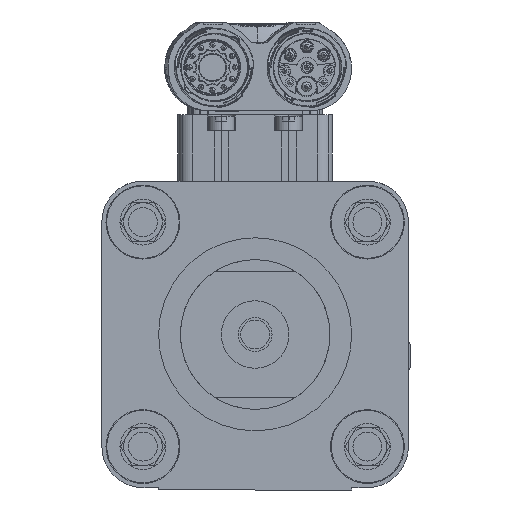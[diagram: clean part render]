
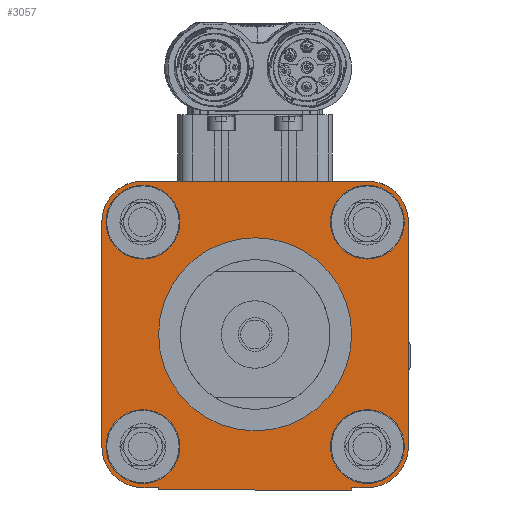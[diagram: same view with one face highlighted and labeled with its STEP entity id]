
A CAD part, left-side view. The second image highlights one B-rep face of the part: STEP entity #3057.
In plain terms, the highlighted planar face has unit normal (-1, 0, 0) as drawn and (0, 0, 1) by its records, which use the part's own axes.
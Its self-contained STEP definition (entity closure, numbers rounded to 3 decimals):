
#3057=ADVANCED_FACE('10:20',(#7719,#7720,#7721,#7722,#7723,#7724),#7725,.T.);
#7719=FACE_BOUND('',#14329,.T.);
#7720=FACE_BOUND('',#14330,.T.);
#7721=FACE_BOUND('',#14331,.T.);
#7722=FACE_BOUND('',#14332,.T.);
#7723=FACE_BOUND('',#14333,.T.);
#7724=FACE_OUTER_BOUND('',#14334,.T.);
#7725=PLANE('',#14335);
#14329=EDGE_LOOP('',(#44551,#44552));
#14330=EDGE_LOOP('',(#44553,#44554));
#14331=EDGE_LOOP('',(#44555,#44556));
#14332=EDGE_LOOP('',(#44557,#44558));
#14333=EDGE_LOOP('',(#44559,#44560));
#14334=EDGE_LOOP('',(#44561,#44562,#44563,#44564,#44565,#44566,#44567,#44568,#44569,#44570,#44571,#44572,#44573,#44574,#44575,#44576));
#14335=AXIS2_PLACEMENT_3D('',#44577,#44578,#44579);
#44551=ORIENTED_EDGE('',*,*,#62134,.F.);
#44552=ORIENTED_EDGE('',*,*,#62244,.F.);
#44553=ORIENTED_EDGE('',*,*,#62139,.F.);
#44554=ORIENTED_EDGE('',*,*,#62241,.F.);
#44555=ORIENTED_EDGE('',*,*,#62144,.F.);
#44556=ORIENTED_EDGE('',*,*,#62238,.F.);
#44557=ORIENTED_EDGE('',*,*,#62149,.F.);
#44558=ORIENTED_EDGE('',*,*,#62235,.F.);
#44559=ORIENTED_EDGE('',*,*,#62154,.F.);
#44560=ORIENTED_EDGE('',*,*,#62232,.F.);
#44561=ORIENTED_EDGE('',*,*,#62159,.F.);
#44562=ORIENTED_EDGE('',*,*,#62227,.F.);
#44563=ORIENTED_EDGE('',*,*,#62222,.F.);
#44564=ORIENTED_EDGE('',*,*,#62164,.F.);
#44565=ORIENTED_EDGE('',*,*,#62220,.F.);
#44566=ORIENTED_EDGE('',*,*,#62213,.F.);
#44567=ORIENTED_EDGE('',*,*,#62169,.F.);
#44568=ORIENTED_EDGE('',*,*,#62210,.F.);
#44569=ORIENTED_EDGE('',*,*,#62206,.F.);
#44570=ORIENTED_EDGE('',*,*,#62174,.F.);
#44571=ORIENTED_EDGE('',*,*,#62203,.F.);
#44572=ORIENTED_EDGE('',*,*,#62200,.F.);
#44573=ORIENTED_EDGE('',*,*,#62196,.F.);
#44574=ORIENTED_EDGE('',*,*,#62190,.F.);
#44575=ORIENTED_EDGE('',*,*,#62187,.F.);
#44576=ORIENTED_EDGE('',*,*,#62229,.F.);
#44577=CARTESIAN_POINT('',(0.,0.,34.0));
#44578=DIRECTION('',(0.0,0.0,1.0));
#44579=DIRECTION('',(1.0,0.0,0.0));
#62134=EDGE_CURVE('10:253',#74532,#74528,#74534,.F.);
#62139=EDGE_CURVE('0:1577',#74541,#74537,#74543,.F.);
#62144=EDGE_CURVE('0:1603',#74550,#74546,#74552,.F.);
#62149=EDGE_CURVE('0:1551',#74559,#74555,#74561,.F.);
#62154=EDGE_CURVE('0:1525',#74568,#74564,#74570,.F.);
#62159=EDGE_CURVE('0:1801',#74577,#74573,#74579,.F.);
#62164=EDGE_CURVE('0:1695',#74586,#74582,#74588,.F.);
#62169=EDGE_CURVE('0:1637',#74595,#74591,#74597,.F.);
#62174=EDGE_CURVE('0:1747',#74604,#74600,#74606,.F.);
#62187=EDGE_CURVE('13:41',#74625,#74620,#74627,.F.);
#62190=EDGE_CURVE('13:400',#74620,#74631,#74632,.F.);
#62196=EDGE_CURVE('13:394',#74631,#74639,#74640,.F.);
#62200=EDGE_CURVE('13:385',#74639,#74645,#74646,.F.);
#62203=EDGE_CURVE('13:44',#74645,#74604,#74649,.F.);
#62206=EDGE_CURVE('',#74600,#74652,#74653,.F.);
#62210=EDGE_CURVE('0:845',#74652,#74595,#74658,.F.);
#62213=EDGE_CURVE('',#74591,#74661,#74662,.F.);
#62220=EDGE_CURVE('0:854',#74661,#74586,#74670,.F.);
#62222=EDGE_CURVE('',#74582,#74672,#74673,.F.);
#62227=EDGE_CURVE('0:863',#74672,#74577,#74679,.F.);
#62229=EDGE_CURVE('',#74573,#74625,#74681,.F.);
#62232=EDGE_CURVE('',#74564,#74568,#74684,.F.);
#62235=EDGE_CURVE('',#74555,#74559,#74687,.F.);
#62238=EDGE_CURVE('',#74546,#74550,#74690,.F.);
#62241=EDGE_CURVE('',#74537,#74541,#74693,.F.);
#62244=EDGE_CURVE('',#74528,#74532,#74696,.F.);
#74528=VERTEX_POINT('',#96642);
#74532=VERTEX_POINT('',#96647);
#74534=CIRCLE('',#96650,20.0);
#74537=VERTEX_POINT('',#96653);
#74541=VERTEX_POINT('',#96658);
#74543=CIRCLE('',#96661,7.65);
#74546=VERTEX_POINT('',#96664);
#74550=VERTEX_POINT('',#96669);
#74552=CIRCLE('',#96672,7.65);
#74555=VERTEX_POINT('',#96675);
#74559=VERTEX_POINT('',#96680);
#74561=CIRCLE('',#96683,7.65);
#74564=VERTEX_POINT('',#96686);
#74568=VERTEX_POINT('',#96691);
#74570=CIRCLE('',#96694,7.65);
#74573=VERTEX_POINT('',#96697);
#74577=VERTEX_POINT('',#96702);
#74579=CIRCLE('',#96705,8.5);
#74582=VERTEX_POINT('',#96708);
#74586=VERTEX_POINT('',#96713);
#74588=CIRCLE('',#96716,8.5);
#74591=VERTEX_POINT('',#96719);
#74595=VERTEX_POINT('',#96724);
#74597=CIRCLE('',#96727,8.5);
#74600=VERTEX_POINT('',#96730);
#74604=VERTEX_POINT('',#96735);
#74606=CIRCLE('',#96738,8.5);
#74620=VERTEX_POINT('',#96754);
#74625=VERTEX_POINT('',#96761);
#74627=LINE('',#96764,#96765);
#74631=VERTEX_POINT('',#96770);
#74632=LINE('',#96771,#96772);
#74639=VERTEX_POINT('',#96781);
#74640=LINE('',#96782,#96783);
#74645=VERTEX_POINT('',#96790);
#74646=LINE('',#96791,#96792);
#74649=LINE('',#96796,#96797);
#74652=VERTEX_POINT('',#96801);
#74653=CIRCLE('',#96802,8.5);
#74658=LINE('',#96808,#96809);
#74661=VERTEX_POINT('',#96813);
#74662=CIRCLE('',#96814,8.5);
#74670=LINE('',#96824,#96825);
#74672=VERTEX_POINT('',#96827);
#74673=CIRCLE('',#96828,8.5);
#74679=LINE('',#96836,#96837);
#74681=CIRCLE('',#96839,8.5);
#74684=CIRCLE('',#96842,7.65);
#74687=CIRCLE('',#96845,7.65);
#74690=CIRCLE('',#96848,7.65);
#74693=CIRCLE('',#96851,7.65);
#74696=CIRCLE('',#96854,20.0);
#96642=CARTESIAN_POINT('',(35.809,-13.386,34.0));
#96647=CARTESIAN_POINT('',(-4.191,-13.386,34.0));
#96650=AXIS2_PLACEMENT_3D('',#139023,#139024,#139025);
#96653=CARTESIAN_POINT('',(46.709,-36.636,34.0));
#96658=CARTESIAN_POINT('',(31.409,-36.636,34.0));
#96661=AXIS2_PLACEMENT_3D('',#139031,#139032,#139033);
#96664=CARTESIAN_POINT('',(0.209,-36.636,34.0));
#96669=CARTESIAN_POINT('',(-15.091,-36.636,34.0));
#96672=AXIS2_PLACEMENT_3D('',#139039,#139040,#139041);
#96675=CARTESIAN_POINT('',(46.709,9.864,34.0));
#96680=CARTESIAN_POINT('',(31.409,9.864,34.0));
#96683=AXIS2_PLACEMENT_3D('',#139047,#139048,#139049);
#96686=CARTESIAN_POINT('',(0.209,9.864,34.0));
#96691=CARTESIAN_POINT('',(-15.091,9.864,34.0));
#96694=AXIS2_PLACEMENT_3D('',#139055,#139056,#139057);
#96697=CARTESIAN_POINT('',(45.069,-42.647,34.0));
#96702=CARTESIAN_POINT('',(47.559,-36.636,34.0));
#96705=AXIS2_PLACEMENT_3D('',#139063,#139064,#139065);
#96708=CARTESIAN_POINT('',(45.069,15.874,34.0));
#96713=CARTESIAN_POINT('',(39.059,18.364,34.0));
#96716=AXIS2_PLACEMENT_3D('',#139071,#139072,#139073);
#96719=CARTESIAN_POINT('',(-13.451,15.874,34.0));
#96724=CARTESIAN_POINT('',(-15.941,9.864,34.0));
#96727=AXIS2_PLACEMENT_3D('',#139079,#139080,#139081);
#96730=CARTESIAN_POINT('',(-13.451,-42.647,34.0));
#96735=CARTESIAN_POINT('',(-7.441,-45.136,34.0));
#96738=AXIS2_PLACEMENT_3D('',#139087,#139088,#139089);
#96754=CARTESIAN_POINT('',(35.809,-45.136,34.0));
#96761=CARTESIAN_POINT('',(39.059,-45.136,34.0));
#96764=CARTESIAN_POINT('',(7.904,-45.136,34.0));
#96765=VECTOR('',#139107,1.0);
#96770=CARTESIAN_POINT('',(35.809,-45.636,34.0));
#96771=CARTESIAN_POINT('',(35.809,-22.693,34.0));
#96772=VECTOR('',#139109,1.0);
#96781=CARTESIAN_POINT('',(-4.191,-45.636,34.0));
#96782=CARTESIAN_POINT('',(7.904,-45.636,34.0));
#96783=VECTOR('',#139118,1.0);
#96790=CARTESIAN_POINT('',(-4.191,-45.136,34.0));
#96791=CARTESIAN_POINT('',(-4.191,-22.693,34.0));
#96792=VECTOR('',#139121,1.0);
#96796=CARTESIAN_POINT('',(7.904,-45.136,34.0));
#96797=VECTOR('',#139123,1.0);
#96801=CARTESIAN_POINT('',(-15.941,-36.636,34.0));
#96802=AXIS2_PLACEMENT_3D('',#139125,#139126,#139127);
#96808=CARTESIAN_POINT('',(-15.941,-6.693,34.0));
#96809=VECTOR('',#139132,1.0);
#96813=CARTESIAN_POINT('',(-7.441,18.364,34.0));
#96814=AXIS2_PLACEMENT_3D('',#139134,#139135,#139136);
#96824=CARTESIAN_POINT('',(7.904,18.364,34.0));
#96825=VECTOR('',#139148,1.0);
#96827=CARTESIAN_POINT('',(47.559,9.864,34.0));
#96828=AXIS2_PLACEMENT_3D('',#139149,#139150,#139151);
#96836=CARTESIAN_POINT('',(47.559,-6.693,34.0));
#96837=VECTOR('',#139157,1.0);
#96839=AXIS2_PLACEMENT_3D('',#139158,#139159,#139160);
#96842=AXIS2_PLACEMENT_3D('',#139164,#139165,#139166);
#96845=AXIS2_PLACEMENT_3D('',#139170,#139171,#139172);
#96848=AXIS2_PLACEMENT_3D('',#139176,#139177,#139178);
#96851=AXIS2_PLACEMENT_3D('',#139182,#139183,#139184);
#96854=AXIS2_PLACEMENT_3D('',#139188,#139189,#139190);
#139023=CARTESIAN_POINT('',(15.809,-13.386,34.0));
#139024=DIRECTION('',(0.0,0.0,-1.0));
#139025=DIRECTION('',(1.0,0.0,0.0));
#139031=CARTESIAN_POINT('',(39.059,-36.636,34.0));
#139032=DIRECTION('',(0.0,0.0,-1.0));
#139033=DIRECTION('',(1.0,0.0,0.0));
#139039=CARTESIAN_POINT('',(-7.441,-36.636,34.0));
#139040=DIRECTION('',(0.0,0.0,-1.0));
#139041=DIRECTION('',(1.0,0.0,0.0));
#139047=CARTESIAN_POINT('',(39.059,9.864,34.0));
#139048=DIRECTION('',(0.0,0.0,-1.0));
#139049=DIRECTION('',(1.0,0.0,0.0));
#139055=CARTESIAN_POINT('',(-7.441,9.864,34.0));
#139056=DIRECTION('',(0.0,0.0,-1.0));
#139057=DIRECTION('',(1.0,0.0,0.0));
#139063=CARTESIAN_POINT('',(39.059,-36.636,34.0));
#139064=DIRECTION('',(0.0,0.0,1.0));
#139065=DIRECTION('',(0.707,-0.707,0.0));
#139071=CARTESIAN_POINT('',(39.059,9.864,34.0));
#139072=DIRECTION('',(0.0,-0.0,1.0));
#139073=DIRECTION('',(0.707,0.707,0.0));
#139079=CARTESIAN_POINT('',(-7.441,9.864,34.0));
#139080=DIRECTION('',(0.0,0.0,1.0));
#139081=DIRECTION('',(-0.707,0.707,0.0));
#139087=CARTESIAN_POINT('',(-7.441,-36.636,34.0));
#139088=DIRECTION('',(0.0,0.0,1.0));
#139089=DIRECTION('',(-0.707,-0.707,0.0));
#139107=DIRECTION('',(1.0,0.0,-0.0));
#139109=DIRECTION('',(-0.0,1.0,0.0));
#139118=DIRECTION('',(1.0,0.0,-0.0));
#139121=DIRECTION('',(0.0,-1.0,0.0));
#139123=DIRECTION('',(1.0,0.0,-0.0));
#139125=CARTESIAN_POINT('',(-7.441,-36.636,34.0));
#139126=DIRECTION('',(0.0,0.0,1.0));
#139127=DIRECTION('',(-0.707,-0.707,0.0));
#139132=DIRECTION('',(0.0,-1.0,0.0));
#139134=CARTESIAN_POINT('',(-7.441,9.864,34.0));
#139135=DIRECTION('',(0.0,0.0,1.0));
#139136=DIRECTION('',(-0.707,0.707,0.0));
#139148=DIRECTION('',(-1.0,0.0,0.0));
#139149=CARTESIAN_POINT('',(39.059,9.864,34.0));
#139150=DIRECTION('',(0.0,-0.0,1.0));
#139151=DIRECTION('',(0.707,0.707,0.0));
#139157=DIRECTION('',(-0.0,1.0,0.0));
#139158=CARTESIAN_POINT('',(39.059,-36.636,34.0));
#139159=DIRECTION('',(0.0,0.0,1.0));
#139160=DIRECTION('',(0.707,-0.707,0.0));
#139164=CARTESIAN_POINT('',(-7.441,9.864,34.0));
#139165=DIRECTION('',(0.0,0.0,-1.0));
#139166=DIRECTION('',(1.0,0.0,0.0));
#139170=CARTESIAN_POINT('',(39.059,9.864,34.0));
#139171=DIRECTION('',(0.0,0.0,-1.0));
#139172=DIRECTION('',(1.0,0.0,0.0));
#139176=CARTESIAN_POINT('',(-7.441,-36.636,34.0));
#139177=DIRECTION('',(0.0,0.0,-1.0));
#139178=DIRECTION('',(1.0,0.0,0.0));
#139182=CARTESIAN_POINT('',(39.059,-36.636,34.0));
#139183=DIRECTION('',(0.0,0.0,-1.0));
#139184=DIRECTION('',(1.0,0.0,0.0));
#139188=CARTESIAN_POINT('',(15.809,-13.386,34.0));
#139189=DIRECTION('',(0.0,0.0,-1.0));
#139190=DIRECTION('',(1.0,0.0,0.0));
